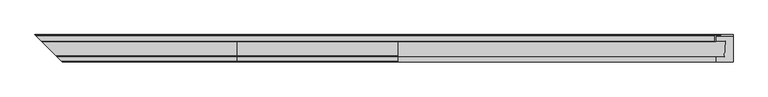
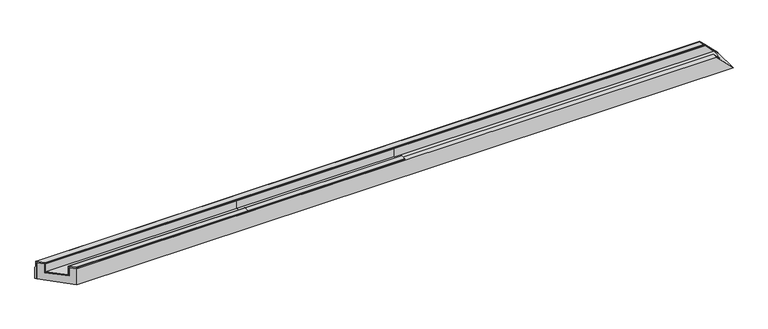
"""IFC4 building model written with IfcOpenShell, lengths in millimetres: proxy geometry, Weiku - Montante - Caixilho duplo 02.2.01.002 de canto : Weiku - Montante - Caixilho duplo 02.2.01.002 de canto."""

from ifc_helpers import new_model, si_unit, point, frame, frame_2d, origin, place, context, project, spatial, polyline, circle_curve, ellipse_curve, trimmed, segment, composite_curve, outline, extrude, faceted_brep, source, transform, mapped, element, save
from ifc_brep_helpers import plane_surface, cylinder_surface, revolved_surface, advanced_brep


def generic_models_73c9f9c2(model_context):
    return source(origin(), model_context, "Body", "SolidModel", [
        extrude(outline(composite_curve([segment(polyline([(15.0, 52.0), (0.0, 52.0), (0.0, 55.0)]), True, "CONTINUOUS"), segment(trimmed(circle_curve(frame_2d((1.0, 55.0)), 1.0), [point((0.0, 55.0))], [point((1.0, 56.0))], False, "CARTESIAN"), True, "CONTINUOUS"), segment(polyline([(1.0, 56.0), (16.0, 56.0)]), True, "CONTINUOUS"), segment(trimmed(circle_curve(frame_2d((16.0, 55.0)), 1.0), [point((16.0, 56.0))], [point((17.0, 55.0))], False, "CARTESIAN"), True, "CONTINUOUS"), segment(polyline([(17.0, 55.0), (17.0, 28.908759), (60.0, 26.8749739), (60.0, 52.0), (62.0, 52.0), (62.0, 23.7770256), (15.0, 26.0), (15.0, 52.0)]), True, "CONTINUOUS")], self_intersect=False)), frame((-476.75, 0.0, 0.0), z_axis=(1.0, 0.0, 0.0), x_axis=(0.0, 1.0, 0.0)), (0.0, 0.0, 1.0), 476.75),
        advanced_brep(
        [(946.5, 60.0, 52.0), (943.5, 60.0, 55.0), (-1058.5, 60.0, 55.0), (-1058.5, 60.0, 52.0), (942.5, 61.0, 56.0), (-1059.5, 61.0, 56.0), (942.5, 78.0, 56.0), (-1076.5, 78.0, 56.0), (943.5, 79.0, 55.0), (-1077.5, 79.0, 55.0), (957.5, 79.0, 41.0), (-1077.5, 79.0, 41.0), (960.5, 80.0, 38.0), (-1078.5, 80.0, 38.0), (963.5, 81.0, 35.0), (-1079.5, 81.0, 35.0), (998.5, 81.0, 0.0), (-1079.5, 81.0, 0.0), (998.5, 77.0, 0.0), (-1075.5, 77.0, 0.0), (946.5, 77.0, 52.0), (-1075.5, 77.0, 52.0)],
        [
            (0, 1),
            (1, 2),
            (2, 3),
            (3, 0),
            (1, 4, ellipse_curve(frame((943.5, 61.0, 55.0), z_axis=(-0.7071067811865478, 0.0, -0.7071067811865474), x_axis=(-0.7071067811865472, 0.0, 0.7071067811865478)), 1.4142136, 1.0)),
            (4, 5),
            (5, 2, ellipse_curve(frame((-1059.5, 61.0, 55.0), z_axis=(0.7071067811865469, 0.7071067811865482, 0.0), x_axis=(-0.707106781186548, 0.7071067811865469, 0.0)), 1.4142136, 1.0)),
            (4, 6),
            (6, 7),
            (7, 5),
            (6, 8, ellipse_curve(frame((943.5, 78.0, 55.0), z_axis=(-0.7071067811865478, 0.0, -0.7071067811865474), x_axis=(-0.7071067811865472, 0.0, 0.7071067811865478)), 1.4142136, 1.0)),
            (8, 9),
            (9, 7, ellipse_curve(frame((-1076.5, 78.0, 55.0), z_axis=(0.7071067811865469, 0.7071067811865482, 0.0), x_axis=(-0.707106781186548, 0.7071067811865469, 0.0)), 1.4142136, 1.0)),
            (8, 10),
            (10, 11),
            (11, 9),
            (10, 12, ellipse_curve(frame((957.5, 84.0, 41.0), z_axis=(0.7071067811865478, 0.0, 0.7071067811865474), x_axis=(0.7071067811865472, 0.0, -0.7071067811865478)), 7.0710678, 5.0)),
            (12, 13),
            (13, 11, ellipse_curve(frame((-1082.5, 84.0, 41.0), z_axis=(-0.7071067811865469, -0.7071067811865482, 0.0), x_axis=(0.707106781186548, -0.7071067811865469, 0.0)), 7.0710678, 5.0)),
            (12, 14, ellipse_curve(frame((963.5, 76.0, 35.0), z_axis=(-0.7071067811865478, 0.0, -0.7071067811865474), x_axis=(-0.7071067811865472, 0.0, 0.7071067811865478)), 7.0710678, 5.0)),
            (14, 15),
            (15, 13, ellipse_curve(frame((-1074.5, 76.0, 35.0), z_axis=(0.7071067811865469, 0.7071067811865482, 0.0), x_axis=(-0.707106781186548, 0.7071067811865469, 0.0)), 7.0710678, 5.0)),
            (14, 16),
            (16, 17),
            (17, 15),
            (16, 18),
            (18, 19),
            (19, 17),
            (18, 20),
            (20, 21),
            (21, 19),
            (20, 0),
            (3, 21),
        ],
        [
            plane_surface(frame((-1088.5, 60.0, 52.0), z_axis=(0.0, -1.0, 0.0), x_axis=(1.0, 0.0, 0.0))),
            cylinder_surface(frame((-1088.5, 61.0, 55.0), z_axis=(-1.0, 0.0, 0.0), x_axis=(0.0, 1.0, 0.0)), 1.0),
            plane_surface(frame((-1088.5, 61.0, 56.0), z_axis=(0.0, 0.0, 1.0), x_axis=(1.0, 0.0, 0.0))),
            cylinder_surface(frame((-1088.5, 78.0, 55.0), z_axis=(-1.0, 0.0, 0.0), x_axis=(0.0, 1.0, 0.0)), 1.0),
            plane_surface(frame((-1088.5, 79.0, 55.0), z_axis=(0.0, 1.0, 0.0), x_axis=(1.0, 0.0, 0.0))),
            revolved_surface(polyline([(962.4999999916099, 89.0, 41.0), (-1087.49999999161, 89.0, 41.0)]), (-1088.5, 84.0, 41.0), (1.0, 0.0, 0.0)),
            cylinder_surface(frame((-1088.5, 76.0, 35.0), z_axis=(-1.0, 0.0, 0.0), x_axis=(0.0, 1.0, 0.0)), 5.0),
            plane_surface(frame((-1088.5, 81.0, 35.0), z_axis=(0.0, 1.0, 0.0), x_axis=(1.0, 0.0, 0.0))),
            plane_surface(frame((-1088.5, 81.0, 0.0), z_axis=(0.0, 0.0, -1.0), x_axis=(1.0, 0.0, 0.0))),
            plane_surface(frame((-1088.5, 77.0, 0.0), z_axis=(0.0, -1.0, 0.0), x_axis=(1.0, 0.0, 0.0))),
            plane_surface(frame((-1088.5, 77.0, 52.0), z_axis=(0.0, 0.0, -1.0), x_axis=(1.0, 0.0, 0.0))),
            plane_surface(frame((-998.5, 0.0, 70.0), z_axis=(-0.7071067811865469, -0.7071067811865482, 0.0), x_axis=(0.0, 0.0, -1.0))),
            plane_surface(frame((928.5, 0.0, 70.0), z_axis=(0.7071067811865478, 0.0, 0.7071067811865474), x_axis=(0.0, 1.0, 0.0))),
        ],
        [
            (0, [[1, 2, 3, 4]]),
            (1, [[5, 6, 7, -2]]),
            (2, [[8, 9, 10, -6]]),
            (3, [[11, 12, 13, -9]]),
            (4, [[14, 15, 16, -12]]),
            (5, [[17, 18, 19, -15]]),
            (6, [[20, 21, 22, -18]]),
            (7, [[23, 24, 25, -21]]),
            (8, [[26, 27, 28, -24]]),
            (9, [[29, 30, 31, -27]]),
            (10, [[32, -4, 33, -30]]),
            (11, [[-3, -7, -10, -13, -16, -19, -22, -25, -28, -31, -33]]),
            (12, [[-1, -32, -29, -26, -23, -20, -17, -14, -11, -8, -5]]),
        ],
    ),
        advanced_brep(
        [(-476.75, 15.0, 52.0), (-476.75, 15.0, 26.0), (-476.75, 62.0, 23.7770256), (-476.75, 62.0, 52.0), (-476.75, 60.0, 52.0), (-476.75, 60.0, 26.8749739), (-476.75, 17.0, 28.908759), (-476.75, 17.0, 55.0), (-476.75, 16.0, 56.0), (-476.75, 1.0, 56.0), (-476.75, 0.0, 55.0), (-476.75, 0.0, 52.0), (-1060.5, 62.0, 52.0), (-1058.5, 60.0, 52.0), (-1060.5, 62.0, 23.7770256), (-998.5, 0.0, 52.0), (-1013.5, 15.0, 52.0), (-998.5, 0.0, 55.0), (-999.5, 1.0, 56.0), (-1014.5, 16.0, 56.0), (-1015.5, 17.0, 55.0), (-1015.5, 17.0, 28.908759), (-1058.5, 60.0, 26.8749739), (-1013.5, 15.0, 26.0)],
        [
            (0, 1),
            (1, 2),
            (2, 3),
            (3, 4),
            (4, 5),
            (5, 6),
            (6, 7),
            (7, 8, circle_curve(frame((-476.75, 16.0, 55.0), z_axis=(1.0, 0.0, 0.0), x_axis=(0.0, 1.0, 0.0)), 1.0)),
            (8, 9),
            (9, 10, circle_curve(frame((-476.75, 1.0, 55.0), z_axis=(1.0, 0.0, 0.0), x_axis=(0.0, 1.0, 0.0)), 1.0)),
            (10, 11),
            (11, 0),
            (3, 12),
            (12, 13),
            (13, 4),
            (2, 14),
            (14, 12),
            (11, 15),
            (15, 16),
            (16, 0),
            (10, 17),
            (17, 15),
            (9, 18),
            (18, 17, ellipse_curve(frame((-999.5, 1.0, 55.0), z_axis=(0.7071067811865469, 0.7071067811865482, 0.0), x_axis=(-0.707106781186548, 0.7071067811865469, 0.0)), 1.4142136, 1.0)),
            (8, 19),
            (19, 18),
            (7, 20),
            (20, 19, ellipse_curve(frame((-1014.5, 16.0, 55.0), z_axis=(0.7071067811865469, 0.7071067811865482, 0.0), x_axis=(-0.707106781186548, 0.7071067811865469, 0.0)), 1.4142136, 1.0)),
            (6, 21),
            (21, 20),
            (5, 22),
            (22, 21),
            (13, 22),
            (1, 23),
            (23, 14),
            (16, 23),
        ],
        [
            plane_surface(frame((-476.75, 0.0, 0.0), z_axis=(1.0, 0.0, 0.0), x_axis=(0.0, 0.0, 1.0))),
            plane_surface(frame((-1088.5, 60.0, 52.0), z_axis=(0.0, 0.0, 1.0), x_axis=(1.0, 0.0, 0.0))),
            plane_surface(frame((-1088.5, 62.0, 52.0), z_axis=(0.0, 1.0, 0.0), x_axis=(1.0, 0.0, 0.0))),
            plane_surface(frame((-1088.5, 15.0, 52.0), z_axis=(0.0, 0.0, -1.0), x_axis=(1.0, 0.0, 0.0))),
            plane_surface(frame((-1088.5, 0.0, 52.0), z_axis=(0.0, -1.0, 0.0), x_axis=(1.0, 0.0, 0.0))),
            cylinder_surface(frame((-1088.5, 1.0, 55.0), z_axis=(-1.0, 0.0, 0.0), x_axis=(0.0, 1.0, 0.0)), 1.0),
            plane_surface(frame((-1088.5, 1.0, 56.0), z_axis=(0.0, 0.0, 1.0), x_axis=(1.0, 0.0, 0.0))),
            cylinder_surface(frame((-1088.5, 16.0, 55.0), z_axis=(-1.0, 0.0, 0.0), x_axis=(0.0, 1.0, 0.0)), 1.0),
            plane_surface(frame((-1088.5, 17.0, 55.0), z_axis=(0.0, 1.0, 0.0), x_axis=(1.0, 0.0, 0.0))),
            plane_surface(frame((-1088.5, 17.0, 28.908759), z_axis=(0.0, 0.0472445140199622, 0.9988833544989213), x_axis=(1.0, 0.0, 0.0))),
            plane_surface(frame((-1088.5, 60.0, 26.8749739), z_axis=(0.0, -1.0, 0.0), x_axis=(1.0, 0.0, 0.0))),
            plane_surface(frame((-1088.5, 62.0, 23.7770256), z_axis=(0.0, -0.047244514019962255, -0.9988833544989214), x_axis=(1.0, 0.0, 0.0))),
            plane_surface(frame((-1088.5, 15.0, 26.0), z_axis=(0.0, -1.0, 0.0), x_axis=(1.0, 0.0, 0.0))),
            plane_surface(frame((-998.5, 0.0, 70.0), z_axis=(-0.7071067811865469, -0.7071067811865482, 0.0), x_axis=(0.0, 0.0, -1.0))),
        ],
        [
            (0, [[1, 2, 3, 4, 5, 6, 7, 8, 9, 10, 11, 12]]),
            (1, [[-4, 13, 14, 15]]),
            (2, [[-3, 16, 17, -13]]),
            (3, [[-12, 18, 19, 20]]),
            (4, [[-11, 21, 22, -18]]),
            (5, [[-10, 23, 24, -21]]),
            (6, [[-9, 25, 26, -23]]),
            (7, [[-8, 27, 28, -25]]),
            (8, [[-7, 29, 30, -27]]),
            (9, [[-6, 31, 32, -29]]),
            (10, [[-5, -15, 33, -31]]),
            (11, [[-2, 34, 35, -16]]),
            (12, [[-1, -20, 36, -34]]),
            (13, [[-14, -17, -35, -36, -19, -22, -24, -26, -28, -30, -32, -33]]),
        ],
    ),
        faceted_brep([(946.5, 15.0, 52.0), (972.5, 15.0, 26.0), (-1013.5, 15.0, 26.0), (-1013.5, 15.0, 52.0), (974.7229744, 62.0, 23.7770256), (-1060.5, 62.0, 23.7770256), (946.5, 62.0, 52.0), (-1060.5, 62.0, 52.0), (946.5, 77.0, 52.0), (-1075.5, 77.0, 52.0), (998.5, 77.0, 0.0), (-1075.5, 77.0, 0.0), (998.5, 0.0, 0.0), (-998.5, 0.0, 0.0), (946.5, 0.0, 52.0), (-998.5, 0.0, 52.0)], [[[0, 1, 2, 3]], [[1, 4, 5, 2]], [[4, 6, 7, 5]], [[6, 8, 9, 7]], [[8, 10, 11, 9]], [[10, 12, 13, 11]], [[12, 14, 15, 13]], [[14, 0, 3, 15]], [[3, 2, 5, 7, 9, 11, 13, 15]], [[1, 0, 14, 12, 10, 8, 6, 4]]]),
    ])


if __name__ == "__main__":
    model = new_model("IFC4")
    model_context = context("Model", 3, world=origin())
    ifc_project = project(units=[si_unit("LENGTHUNIT", "METRE", prefix="MILLI")], contexts=[model_context])
    site = spatial("IfcSite", under=ifc_project)
    building = spatial("IfcBuilding", under=site)
    placement = place(None, origin())
    generic_models_shape = generic_models_73c9f9c2(model_context)
    element("IfcBuildingElementProxy", 1, Name="Weiku - Montante - Caixilho duplo 02.2.01.002 de canto : Weiku - Montante - Caixilho duplo 02.2.01.002 de canto", ObjectType="Weiku - Montante - Caixilho duplo 02.2.01.002 de canto : Weiku - Montante - Caixilho duplo 02.2.01.002 de canto", at=placement, inside=building, context=model_context, shape_type="MappedRepresentation", body=[
        mapped(generic_models_shape, transform((0.0, 0.0, 0.0), x_axis=(1.0, 0.0, 0.0), y_axis=(0.0, 1.0, 0.0), z_axis=(0.0, 0.0, 1.0))),
    ])
    save(model, "model.ifc")
